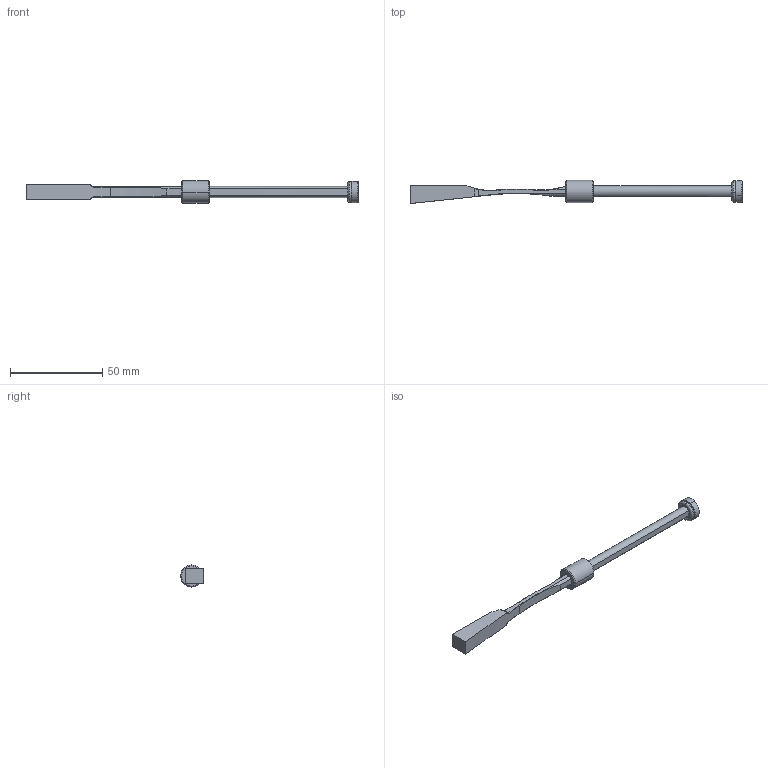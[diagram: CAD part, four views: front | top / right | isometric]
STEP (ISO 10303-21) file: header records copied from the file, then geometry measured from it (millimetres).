
FILE_DESCRIPTION (( 'STEP AP214' ), '1' );
FILE_NAME ('pw060830_injection.STEP', '2021-07-15T09:10:34', ( '' ), ( '' ), 'SwSTEP 2.0', 'SolidWorks 2019', '' );
FILE_SCHEMA (( 'AUTOMOTIVE_DESIGN' ));
Length unit declared in the file: millimetre
Products named in the file (6): 9PW060830 TANCADA; 3JT7.5X2X11.5; 9CS061215; 1DIN7991416_DIN 7991 - M4 x 16 --- 16C; pw060830_injection; 9FP1205M4
Assembly tree (5 placements, depth 2):
  pw060830_injection
    9PW060830 TANCADA
    9FP1205M4
    3JT7.5X2X11.5
    1DIN7991416_DIN 7991 - M4 x 16 --- 16C
    9CS061215
Bounding box: 180 x 12.5 x 12 mm (x, y, z)
Volume: 7134.3 mm3; surface area: 6049.7 mm2
Topology: 5 solids, 5 shells, 468 faces, 1257 edges, 819 vertices
Faces by surface type: bspline 255, plane 102, cylinder 69, cone 28, torus 14
Entity records: 27012 total; most frequent: CARTESIAN_POINT 17388, ORIENTED_EDGE 2506, EDGE_CURVE 1253, DIRECTION 943, B_SPLINE_CURVE_WITH_KNOTS 874, VERTEX_POINT 819, EDGE_LOOP 498, ADVANCED_FACE 468
